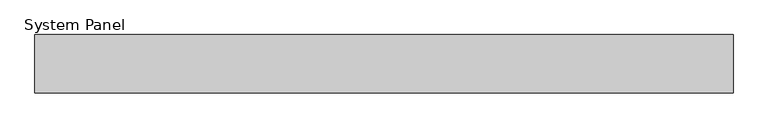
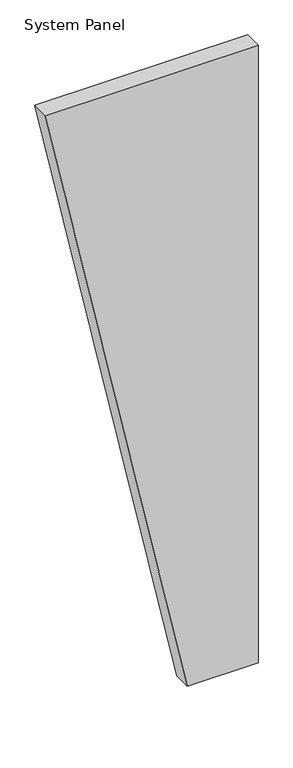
"""IFC4 building model written with IfcOpenShell, lengths in millimetres: plate geometry, System Panel : Equitilt 100mm Vertical - Plain RHEA - MW."""

from ifc_helpers import new_model, si_unit, frame, origin, place, context, project, spatial, polyline, outline, extrude, source, transform, mapped, element, save


def system_panel_2103b3a6(model_context):
    return source(origin(), model_context, "Body", "SweptSolid", [
        extrude(outline(polyline([(0.0, 200.0), (0.0, 600.0), (3679.9704237, 600.0), (3679.9704237, -600.0), (0.0, 200.0)])), frame((0.0, -100.0, 0.0), z_axis=(0.0, 1.0, 0.0), x_axis=(0.0, 0.0, 1.0)), (0.0, 0.0, 1.0), 100.0),
    ])


if __name__ == "__main__":
    model = new_model("IFC4")
    model_context = context("Model", 3, world=origin())
    ifc_project = project(units=[si_unit("LENGTHUNIT", "METRE", prefix="MILLI")], contexts=[model_context])
    site = spatial("IfcSite", under=ifc_project)
    building = spatial("IfcBuilding", under=site)
    placement = place(None, origin())
    system_panel_shape = system_panel_2103b3a6(model_context)
    element("IfcPlate", 1, ObjectType="System Panel : Equitilt 100mm Vertical - Plain RHEA - MW", at=placement, inside=building, context=model_context, shape_type="MappedRepresentation", body=[
        mapped(system_panel_shape, transform((0.0, 0.0, 0.0), x_axis=(1.0, 0.0, 0.0), y_axis=(0.0, 1.0, 0.0), z_axis=(0.0, 0.0, 1.0))),
    ])
    save(model, "model.ifc")
